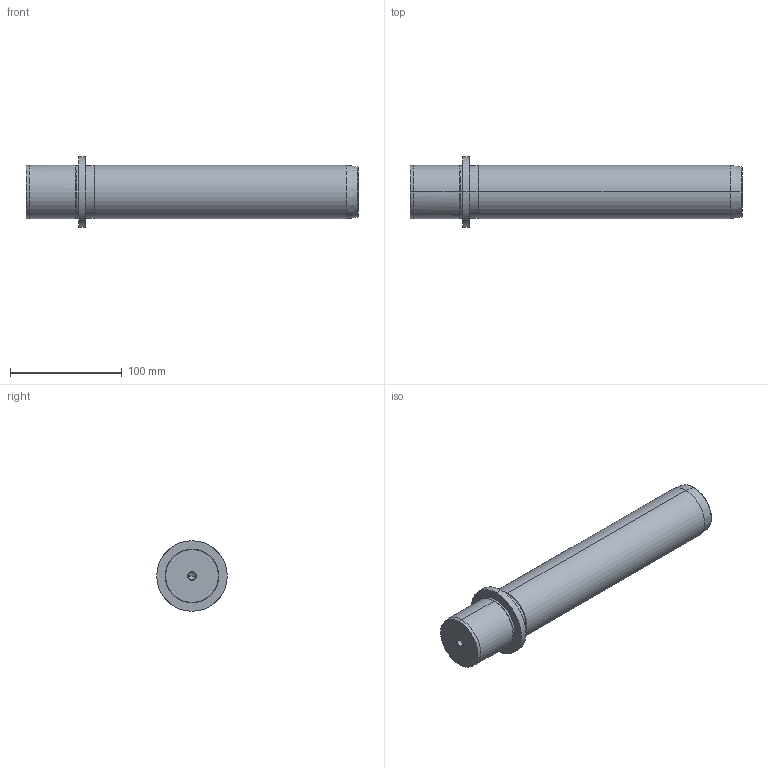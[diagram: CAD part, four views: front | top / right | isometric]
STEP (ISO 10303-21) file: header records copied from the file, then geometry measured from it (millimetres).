
FILE_DESCRIPTION(('CATIA V5 STEP Exchange'),'2;1');
FILE_NAME('C:\Users\Utente\Desktop\IO LAVORO\3D X SITO CF\X SITO\719\719-48x250.stp','2021-01-03T15:16:21+00:00',('none'),('none'),'CATIA Version 5 Release 20 GA (IN-10)','CATIA V5 STEP AP203','none');
FILE_SCHEMA(('CONFIG_CONTROL_DESIGN'));
Length unit declared in the file: millimetre
Products named in the file (1): 719-48x250
Bounding box: 297 x 63 x 63 mm (x, y, z)
Volume: 541506.4 mm3; surface area: 52112.3 mm2
Topology: 1 solids, 1 shells, 36 faces, 100 edges, 66 vertices
Faces by surface type: cone 16, cylinder 14, plane 4, torus 2
Entity records: 1270 total; most frequent: CARTESIAN_POINT 339, ORIENTED_EDGE 192, DIRECTION 158, EDGE_CURVE 96, AXIS2_PLACEMENT_3D 93, VERTEX_POINT 66, CIRCLE 56, EDGE_LOOP 40
